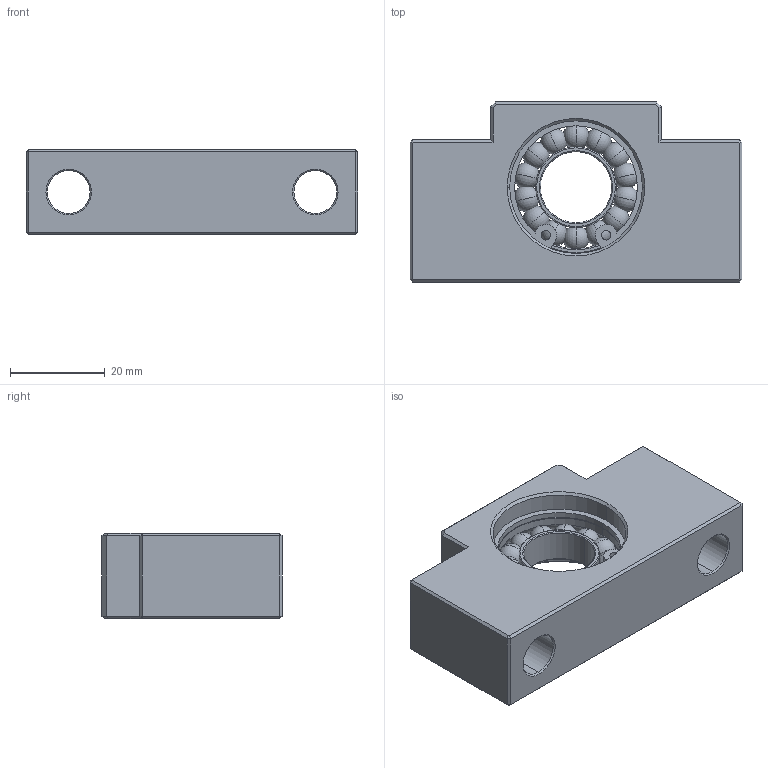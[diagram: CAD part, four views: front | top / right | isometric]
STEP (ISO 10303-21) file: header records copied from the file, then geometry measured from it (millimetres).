
FILE_DESCRIPTION (( 'STEP AP203' ), '1' );
FILE_NAME ('LFA15.STEP', '2009-07-09T02:18:50', ( '無限使用' ), ( 'FDZone.ORG' ), 'SwSTEP 2.0', 'SolidWorks 2008', '' );
FILE_SCHEMA (( 'CONFIG_CONTROL_DESIGN' ));
Length unit declared in the file: millimetre
Products named in the file (1): LFA15
Bounding box: 70 x 38 x 18 mm (x, y, z)
Volume: 28470 mm3; surface area: 15453.5 mm2
Topology: 19 solids, 19 shells, 180 faces, 440 edges, 276 vertices
Faces by surface type: plane 62, cylinder 56, sphere 28, torus 22, cone 12
Entity records: 4859 total; most frequent: DIRECTION 924, CARTESIAN_POINT 785, ORIENTED_EDGE 740, AXIS2_PLACEMENT_3D 373, EDGE_CURVE 370, VERTEX_POINT 234, EDGE_LOOP 204, CIRCLE 192
